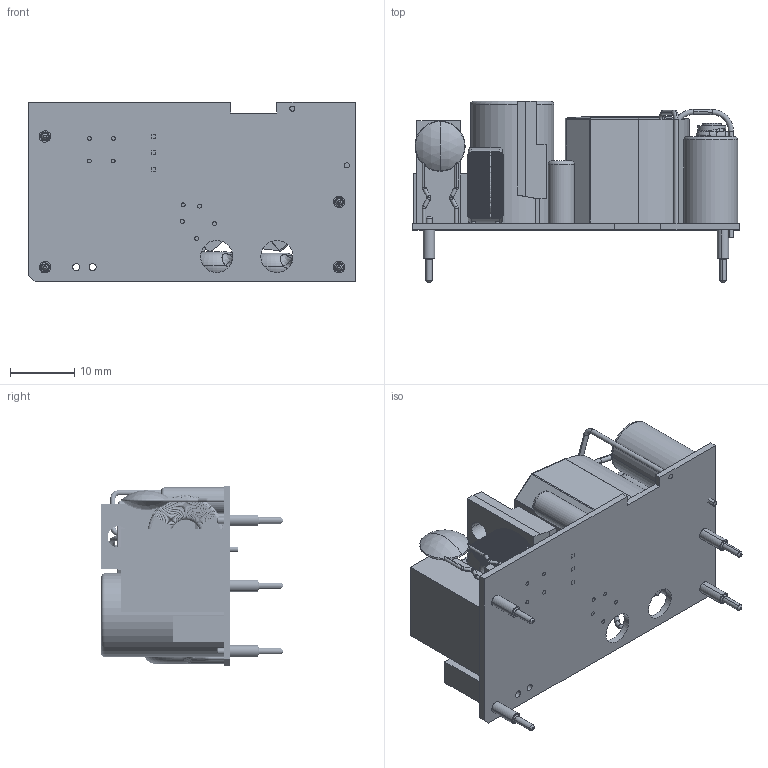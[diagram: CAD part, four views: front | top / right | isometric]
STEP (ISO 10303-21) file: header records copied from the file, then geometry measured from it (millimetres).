
FILE_DESCRIPTION (( 'STEP AP214' ), '1' );
FILE_NAME ('CFM25SXXX¦¨«~¹Ï(02)-1090421.STEP', '2020-04-21T03:16:54', ( '' ), ( '' ), 'SwSTEP 2.0', 'SolidWorks 2017', '' );
FILE_SCHEMA (( 'AUTOMOTIVE_DESIGN' ));
Length unit declared in the file: millimetre
Products named in the file (12): CFM25 CY4 105,09,01; CFM25SXXX成品圖(02)-1090421; CFM25 CORE; C陶瓷電容d8-1051118; (B)D4-1050901; CFM25 L5; CFM25SXXX PCB(02)-1090421; 電晶體10mm; D4-1050901; CFM25變壓器(參考); CFM25ｶ鷄IN-1090421; CFM25SXXX PCB-1051208
Assembly tree (15 placements, depth 2):
  CFM25SXXX成品圖(02)-1090421
    CFM25SXXX PCB(02)-1090421
    電晶體10mm
    CFM25 CORE
    D4-1050901
    C陶瓷電容d8-1051118
    CFM25變壓器(參考)
    CFM25 CY4 105,09,01  x2
    (B)D4-1050901
    CFM25 L5
    CFM25ｶ鷄IN-1090421  x4
    CFM25SXXX PCB-1051208
Bounding box: 50.8 x 28.2 x 27.94 mm (x, y, z)
Volume: 14299.2 mm3; surface area: 14969.9 mm2
Topology: 19 solids, 19 shells, 2816 faces, 7680 edges, 4676 vertices
Faces by surface type: bspline 1254, cylinder 1242, plane 238, torus 70, cone 8, sphere 4
Entity records: 119167 total; most frequent: CARTESIAN_POINT 38649, ORIENTED_EDGE 15062, DIRECTION 14255, EDGE_CURVE 7531, AXIS2_PLACEMENT_3D 6270, CIRCLE 4758, VERTEX_POINT 4590, EDGE_LOOP 2803
